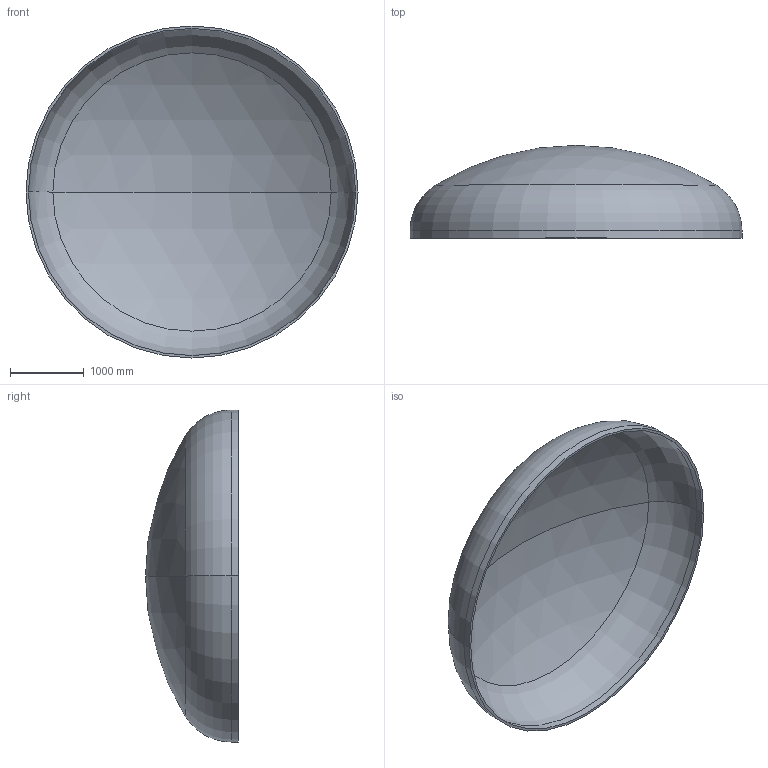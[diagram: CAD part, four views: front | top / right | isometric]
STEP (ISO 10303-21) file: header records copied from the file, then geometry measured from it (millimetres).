
FILE_DESCRIPTION (( 'STEP AP203' ), '1' );
FILE_NAME ('DIN 28013 Korbbogenform_-_Boden DIN 28013 - 4500 x 100 - I - s=33.step', '2016-07-01T23:18:52', ( '' ), ( '' ), 'SwSTEP 2.0', 'SolidWorks 2013', '' );
FILE_SCHEMA (( 'CONFIG_CONTROL_DESIGN' ));
Length unit declared in the file: millimetre
Products named in the file (1): DIN 28013 Korbbogenform_-_Boden DIN 28013 - 4500 x 100 - I - s=33
Bounding box: 4500 x 1258.62 x 4500 mm (x, y, z)
Volume: 766608663.2 mm3; surface area: 46926499.5 mm2
Topology: 1 solids, 1 shells, 13 faces, 24 edges, 14 vertices
Faces by surface type: torus 4, cylinder 4, sphere 4, plane 1
Entity records: 407 total; most frequent: DIRECTION 72, CARTESIAN_POINT 52, ORIENTED_EDGE 48, AXIS2_PLACEMENT_3D 34, EDGE_CURVE 24, CIRCLE 20, EDGE_LOOP 14, VERTEX_POINT 14
